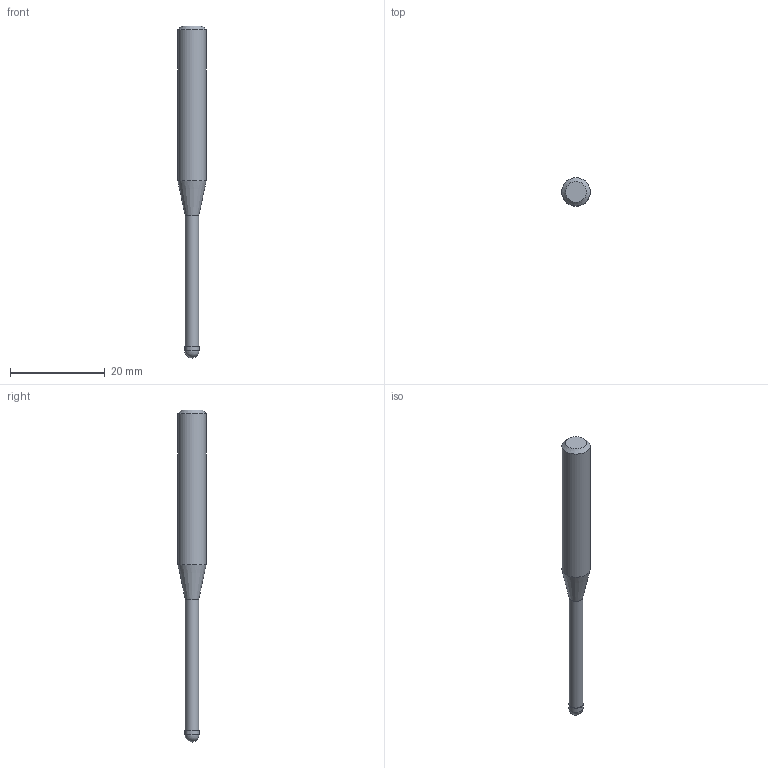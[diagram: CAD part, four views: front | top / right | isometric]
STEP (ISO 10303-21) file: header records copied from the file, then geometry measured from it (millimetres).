
FILE_DESCRIPTION((''),'2;1');
FILE_NAME('C:\Users\nsx150\AppData\Local\Temp\Mastercam 2021\EUJSUNXURU\TEMP.step','2021-04-22T10:22:56',(''),(''),'STEP Write','Mastercam 2021 ... CNC Software, Inc.','');
FILE_SCHEMA(('AUTOMOTIVE_DESIGN'));
Length unit declared in the file: millimetre
Products named in the file (1): None
Bounding box: 6 x 6 x 70 mm (x, y, z)
Volume: 1224.3 mm3; surface area: 1021.5 mm2
Topology: 2 solids, 2 shells, 9 faces, 14 edges, 8 vertices
Faces by surface type: plane 3, cylinder 3, cone 2, sphere 1
Full cylindrical faces by diameter (mm): 2.85 x1, 3 x1, 6 x1
Entity records: 211 total; most frequent: DIRECTION 36, CARTESIAN_POINT 25, AXIS2_PLACEMENT_3D 18, ORIENTED_EDGE 14, EDGE_LOOP 14, STYLED_ITEM 12, ADVANCED_FACE 9, FACE_BOUND 8
